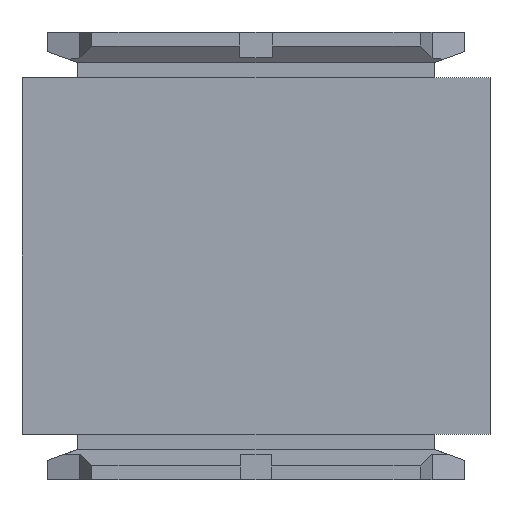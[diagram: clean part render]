
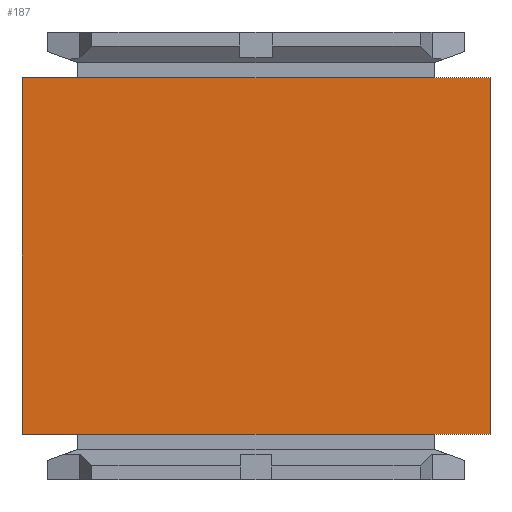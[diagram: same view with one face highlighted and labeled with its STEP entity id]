
A CAD part, left-side view. The second image highlights one B-rep face of the part: STEP entity #187.
In plain terms, the highlighted planar face has unit normal (-1, 0, 0).
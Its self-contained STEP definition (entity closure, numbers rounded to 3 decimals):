
#187 = ADVANCED_FACE( '', ( #457 ), #458, .F. );
#457 = FACE_OUTER_BOUND( '', #846, .T. );
#458 = PLANE( '', #847 );
#846 = EDGE_LOOP( '', ( #1237, #1238, #1239, #1240 ) );
#847 = AXIS2_PLACEMENT_3D( '', #1241, #1242, #1243 );
#1237 = ORIENTED_EDGE( '', *, *, #2255, .T. );
#1238 = ORIENTED_EDGE( '', *, *, #2256, .F. );
#1239 = ORIENTED_EDGE( '', *, *, #2257, .F. );
#1240 = ORIENTED_EDGE( '', *, *, #2258, .T. );
#1241 = CARTESIAN_POINT( '', ( -23., 23., -17.5 ) );
#1242 = DIRECTION( '', ( 1., 0., 0. ) );
#1243 = DIRECTION( '', ( 0., 0., -1. ) );
#2255 = EDGE_CURVE( '', #2665, #2666, #2667, .T. );
#2256 = EDGE_CURVE( '', #2668, #2666, #2669, .T. );
#2257 = EDGE_CURVE( '', #2670, #2668, #2671, .T. );
#2258 = EDGE_CURVE( '', #2670, #2665, #2672, .T. );
#2665 = VERTEX_POINT( '', #3265 );
#2666 = VERTEX_POINT( '', #3266 );
#2667 = LINE( '', #3267, #3268 );
#2668 = VERTEX_POINT( '', #3269 );
#2669 = LINE( '', #3270, #3271 );
#2670 = VERTEX_POINT( '', #3272 );
#2671 = LINE( '', #3273, #3274 );
#2672 = LINE( '', #3275, #3276 );
#3265 = CARTESIAN_POINT( '', ( -23., -23., -17.5 ) );
#3266 = CARTESIAN_POINT( '', ( -23., -23., 17.5 ) );
#3267 = CARTESIAN_POINT( '', ( -23., -23., -17.5 ) );
#3268 = VECTOR( '', #4085, 1000. );
#3269 = CARTESIAN_POINT( '', ( -23., 23., 17.5 ) );
#3270 = CARTESIAN_POINT( '', ( -23., 23., 17.5 ) );
#3271 = VECTOR( '', #4086, 1000. );
#3272 = CARTESIAN_POINT( '', ( -23., 23., -17.5 ) );
#3273 = CARTESIAN_POINT( '', ( -23., 23., -17.5 ) );
#3274 = VECTOR( '', #4087, 1000. );
#3275 = CARTESIAN_POINT( '', ( -23., 23., -17.5 ) );
#3276 = VECTOR( '', #4088, 1000. );
#4085 = DIRECTION( '', ( 0., 0., 1. ) );
#4086 = DIRECTION( '', ( 0., -1., 0. ) );
#4087 = DIRECTION( '', ( 0., 0., 1. ) );
#4088 = DIRECTION( '', ( 0., -1., 0. ) );
